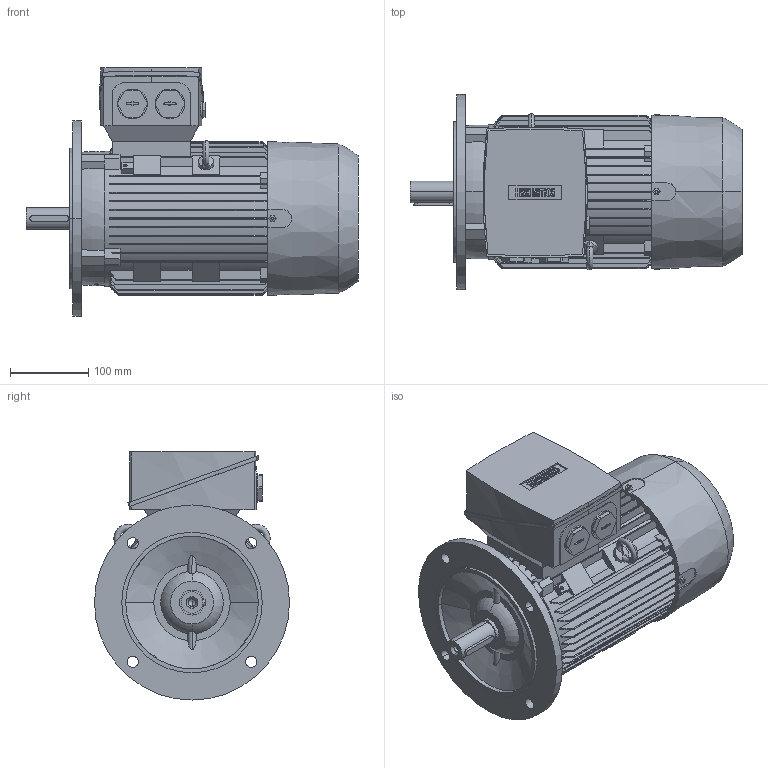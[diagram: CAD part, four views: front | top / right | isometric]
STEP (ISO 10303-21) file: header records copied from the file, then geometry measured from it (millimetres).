
FILE_DESCRIPTION(('STEP AP214'),'1');
FILE_NAME('cctmp_A0A609E4-C897-41ED-9F55-3F0638EF5222_2026_04_15_13_25_14_0375_21380..stp','2026-04-15T11:25:14',('KiM GmbH'),('CADClick - www.CADClick.com'),'Spatial InterOp 3D',' ','unknown authorization');
FILE_SCHEMA(('AUTOMOTIVE_DESIGN'));
Length unit declared in the file: millimetre
Products named in the file (1): 2026_04_15_13_25_14_0375
Bounding box: 425.5 x 250 x 318 mm (x, y, z)
Volume: 11497117.8 mm3; surface area: 619753.6 mm2
Topology: 7 solids, 7 shells, 910 faces, 2474 edges, 1626 vertices
Faces by surface type: plane 554, cylinder 216, torus 106, cone 30, sphere 4
Entity records: 40898 total; most frequent: CARTESIAN_POINT 10711, ORIENTED_EDGE 4944, DIRECTION 4552, EDGE_CURVE 2472, VERTEX_POINT 1626, AXIS2_PLACEMENT_3D 1531, LINE 1490, VECTOR 1490
